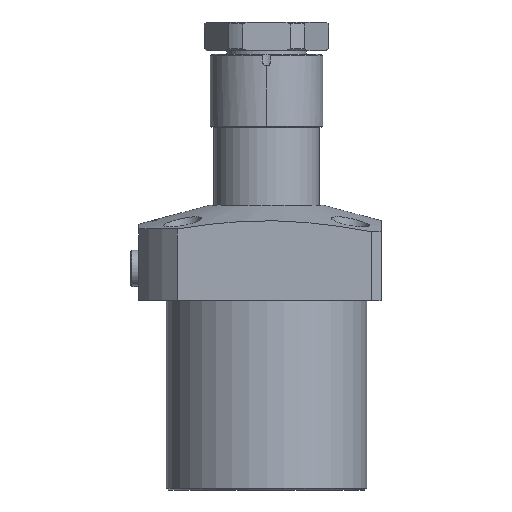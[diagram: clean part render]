
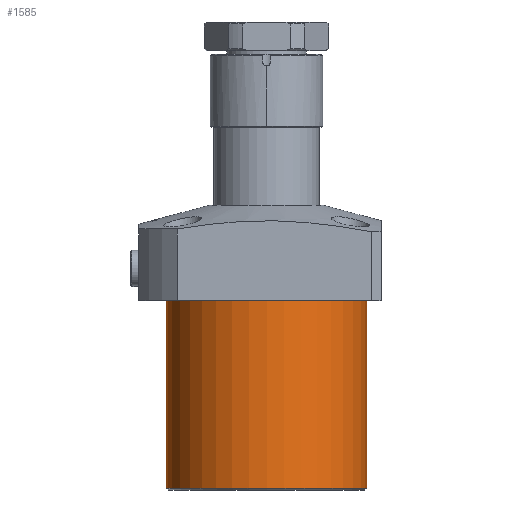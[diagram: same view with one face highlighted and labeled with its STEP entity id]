
A CAD part, front view. The second image highlights one B-rep face of the part: STEP entity #1585.
In plain terms, the highlighted cylindrical face has radius 52.5 mm (diameter 105 mm), a partial arc.
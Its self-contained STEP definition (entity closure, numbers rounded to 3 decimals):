
#159 = DIRECTION ( 'NONE',  ( 0., 0., 1. ) ) ;
#557 = LINE ( 'NONE', #9637, #13808 ) ;
#1138 = ORIENTED_EDGE ( 'NONE', *, *, #10681, .T. ) ;
#1585 = ADVANCED_FACE ( 'NONE', ( #1739 ), #11863, .T. ) ;
#1739 = FACE_OUTER_BOUND ( 'NONE', #7826, .T. ) ;
#1749 = DIRECTION ( 'NONE',  ( 0., 0., 1. ) ) ;
#1830 = DIRECTION ( 'NONE',  ( 1., 0., 0. ) ) ;
#2575 = CIRCLE ( 'NONE', #10350, 52.5 ) ;
#3096 = CARTESIAN_POINT ( 'NONE',  ( 0., 0., -99. ) ) ;
#3143 = DIRECTION ( 'NONE',  ( 0., 0., 1. ) ) ;
#3999 = ORIENTED_EDGE ( 'NONE', *, *, #7396, .F. ) ;
#4455 = VERTEX_POINT ( 'NONE', #7669 ) ;
#4764 = ORIENTED_EDGE ( 'NONE', *, *, #6626, .T. ) ;
#5519 = LINE ( 'NONE', #11831, #8619 ) ;
#6626 = EDGE_CURVE ( 'NONE', #4455, #7227, #5519, .T. ) ;
#6770 = CARTESIAN_POINT ( 'NONE',  ( -52.5, 0., 0. ) ) ;
#6882 = CARTESIAN_POINT ( 'NONE',  ( 0., 0., 0. ) ) ;
#7227 = VERTEX_POINT ( 'NONE', #10518 ) ;
#7396 = EDGE_CURVE ( 'NONE', #10126, #14292, #557, .T. ) ;
#7669 = CARTESIAN_POINT ( 'NONE',  ( 52.5, 0., -98. ) ) ;
#7826 = EDGE_LOOP ( 'NONE', ( #3999, #11911, #4764, #1138 ) ) ;
#7846 = DIRECTION ( 'NONE',  ( 0., 0., 1. ) ) ;
#8069 = CARTESIAN_POINT ( 'NONE',  ( 0., 0., -98. ) ) ;
#8238 = DIRECTION ( 'NONE',  ( -1., 0., 0. ) ) ;
#8619 = VECTOR ( 'NONE', #7846, 1000. ) ;
#9377 = DIRECTION ( 'NONE',  ( -1., 0., 0. ) ) ;
#9637 = CARTESIAN_POINT ( 'NONE',  ( -52.5, 0., -99. ) ) ;
#10126 = VERTEX_POINT ( 'NONE', #16575 ) ;
#10350 = AXIS2_PLACEMENT_3D ( 'NONE', #6882, #16188, #8238 ) ;
#10518 = CARTESIAN_POINT ( 'NONE',  ( 52.5, 0., 0. ) ) ;
#10681 = EDGE_CURVE ( 'NONE', #7227, #14292, #2575, .T. ) ;
#11356 = CIRCLE ( 'NONE', #15875, 52.5 ) ;
#11831 = CARTESIAN_POINT ( 'NONE',  ( 52.5, 0., -99. ) ) ;
#11863 = CYLINDRICAL_SURFACE ( 'NONE', #14991, 52.5 ) ;
#11911 = ORIENTED_EDGE ( 'NONE', *, *, #17157, .T. ) ;
#13808 = VECTOR ( 'NONE', #1749, 1000. ) ;
#14292 = VERTEX_POINT ( 'NONE', #6770 ) ;
#14991 = AXIS2_PLACEMENT_3D ( 'NONE', #3096, #3143, #1830 ) ;
#15875 = AXIS2_PLACEMENT_3D ( 'NONE', #8069, #159, #9377 ) ;
#16188 = DIRECTION ( 'NONE',  ( 0., 0., -1. ) ) ;
#16575 = CARTESIAN_POINT ( 'NONE',  ( -52.5, 0., -98. ) ) ;
#17157 = EDGE_CURVE ( 'NONE', #10126, #4455, #11356, .T. ) ;
